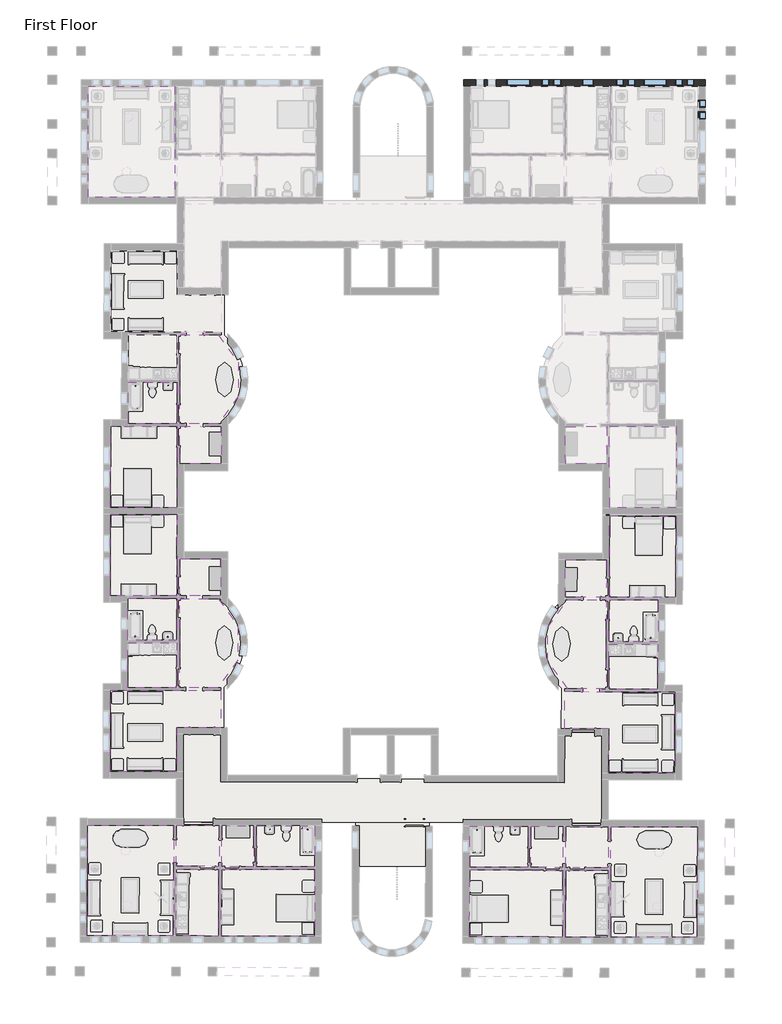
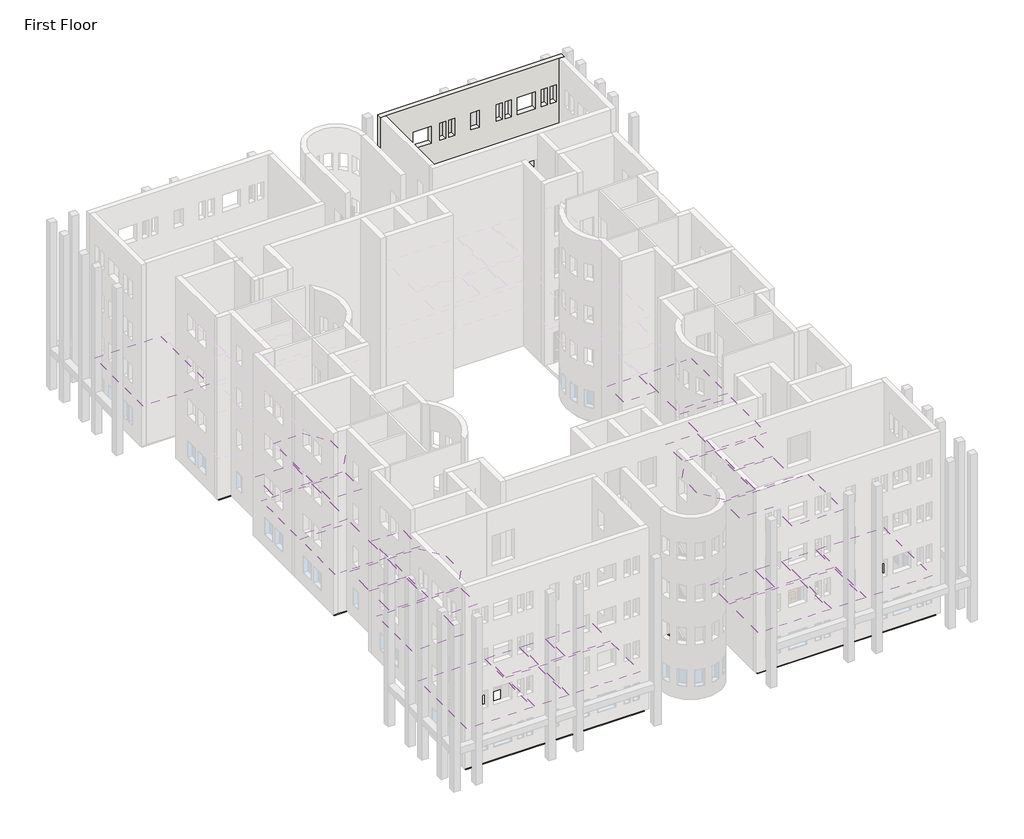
# One storey, part 16 of 23: 31 coverings, 11 windows, 7 slabs, 1 wall.
"""IFC4 building model written with IfcOpenShell, lengths in millimetres."""

from ifc_helpers import new_model, si_unit, point, frame, frame_2d, origin, place, context, project, spatial, polyline, circle_curve, trimmed, segment, composite_curve, outline, extrude, faceted_brep, transform, mapped, element, save
from components import m_fixed_0406_x_1220mm_57fee329, m_fixed_0406_x_1220mm_85c28f40, m_fixed_0610_x_1220mm_2c28ef1d, m_fixed_1220_x_1220mm_e08ff7af

model = new_model("IFC4")

# Units and contexts
model_context = context("Model", 3, world=origin())
ifc_project = project(units=[si_unit("LENGTHUNIT", "METRE", prefix="MILLI")], contexts=[model_context])

# Site, building, storey
site = spatial("IfcSite", under=ifc_project)
building = spatial("IfcBuilding", under=site)
storey = spatial("IfcBuildingStorey", under=building, Name="First Floor", Elevation=0.0)

# Coverings
placement = place(None, origin())
element("IfcCovering", 1, ObjectType="GWB on Metal stud", at=placement, inside=storey, context=model_context, shape_type="SweptSolid", body=[
    extrude(outline(polyline([(-30316.5916203, -3339.8811614), (-34820.8416203, -3339.8811614), (-34820.8416203, 2406.1188386), (-30316.5916203, 2406.1188386), (-30316.5916203, -3339.8811614)])), frame((0.0, 0.0, 2590.0), z_axis=(0.0, 0.0, 1.0), x_axis=(1.0, 0.0, 0.0)), (0.0, 0.0, 1.0), 57.0),
])
element("IfcCovering", 2, ObjectType="GWB on Metal stud", at=placement, inside=storey, context=model_context, shape_type="SweptSolid", body=[
    extrude(outline(polyline([(-14999.3091283, -41787.7339965), (-14989.2451686, -38311.2485634), (-10140.7654843, -38325.2842626), (-10150.829444, -41801.7696957), (-14999.3091283, -41787.7339965)])), frame((0.0, 0.0, 2590.0), z_axis=(0.0, 0.0, 1.0), x_axis=(1.0, 0.0, 0.0)), (0.0, 0.0, 1.0), 57.0),
])
element("IfcCovering", 3, ObjectType="GWB on Metal stud", at=placement, inside=storey, context=model_context, shape_type="SweptSolid", body=[
    extrude(outline(polyline([(-10005.2660521, -38325.6765153), (-7787.0253468, -38332.098025), (-7797.0893064, -41808.5834581), (-10015.3300117, -41802.1619484), (-10005.2660521, -38325.6765153)])), frame((0.0, 0.0, 2590.0), z_axis=(0.0, 0.0, 1.0), x_axis=(1.0, 0.0, 0.0)), (0.0, 0.0, 1.0), 57.0),
])
element("IfcCovering", 4, ObjectType="GWB on Metal stud", at=placement, inside=storey, context=model_context, shape_type="SweptSolid", body=[
    extrude(outline(polyline([(-7644.9560436, -36062.9997871), (-3140.7249168, -36076.0389329), (-3157.3587474, -41822.0148566), (-7661.5898742, -41808.9757108), (-7644.9560436, -36062.9997871)])), frame((0.0, 0.0, 2590.0), z_axis=(0.0, 0.0, 1.0), x_axis=(1.0, 0.0, 0.0)), (0.0, 0.0, 1.0), 57.0),
])
element("IfcCovering", 5, ObjectType="GWB on Metal stud", at=placement, inside=storey, context=model_context, shape_type="SweptSolid", body=[
    extrude(outline(polyline([(-7780.4554758, -36062.6075344), (-7786.6330941, -38196.5985928), (-10004.8737994, -38190.1770831), (-9998.6961811, -36056.1860247), (-7780.4554758, -36062.6075344)])), frame((0.0, 0.0, 2590.0), z_axis=(0.0, 0.0, 1.0), x_axis=(1.0, 0.0, 0.0)), (0.0, 0.0, 1.0), 57.0),
])
element("IfcCovering", 6, ObjectType="GWB on Metal stud", at=placement, inside=storey, context=model_context, shape_type="SweptSolid", body=[
    extrude(outline(polyline([(-11940.8656874, -38184.5726459), (-14988.8529159, -38175.7491311), (-14982.6752977, -36041.7580728), (-11934.6880691, -36050.5815875), (-11940.8656874, -38184.5726459)])), frame((0.0, 0.0, 2590.0), z_axis=(0.0, 0.0, 1.0), x_axis=(1.0, 0.0, 0.0)), (0.0, 0.0, 1.0), 57.0),
])
element("IfcCovering", 7, ObjectType="GWB on Metal stud", at=placement, inside=storey, context=model_context, shape_type="SweptSolid", body=[
    extrude(outline(polyline([(-10134.1956134, -36055.793772), (-10140.3732316, -38189.7848304), (-11805.3662551, -38184.9648986), (-11799.1886369, -36050.9738403), (-10134.1956134, -36055.793772)])), frame((0.0, 0.0, 2590.0), z_axis=(0.0, 0.0, 1.0), x_axis=(1.0, 0.0, 0.0)), (0.0, 0.0, 1.0), 57.0),
])
element("IfcCovering", 8, ObjectType="GWB on Metal stud", at=placement, inside=storey, context=model_context, shape_type="SweptSolid", body=[
    extrude(outline(polyline([(-23042.7754252, -41764.4492391), (-27891.2551095, -41750.4135399), (-27881.1911499, -38273.9281067), (-23032.7114656, -38287.9638059), (-23042.7754252, -41764.4492391)])), frame((0.0, 0.0, 2590.0), z_axis=(0.0, 0.0, 1.0), x_axis=(1.0, 0.0, 0.0)), (0.0, 0.0, 1.0), 57.0),
])
element("IfcCovering", 9, ObjectType="GWB on Metal stud", at=placement, inside=storey, context=model_context, shape_type="SweptSolid", body=[
    extrude(outline(polyline([(-28016.6905821, -38273.535854), (-28026.7545418, -41750.0212871), (-30244.9952471, -41743.5997775), (-30234.9312874, -38267.1143443), (-28016.6905821, -38273.535854)])), frame((0.0, 0.0, 2590.0), z_axis=(0.0, 0.0, 1.0), x_axis=(1.0, 0.0, 0.0)), (0.0, 0.0, 1.0), 57.0),
])
element("IfcCovering", 10, ObjectType="GWB on Metal stud", at=placement, inside=storey, context=model_context, shape_type="SweptSolid", body=[
    extrude(outline(polyline([(-30363.8608487, -35997.2316011), (-30380.4946793, -41743.2075247), (-34884.7258061, -41730.168379), (-34868.0919755, -35984.1924553), (-30363.8608487, -35997.2316011)])), frame((0.0, 0.0, 2590.0), z_axis=(0.0, 0.0, 1.0), x_axis=(1.0, 0.0, 0.0)), (0.0, 0.0, 1.0), 57.0),
])
element("IfcCovering", 11, ObjectType="GWB on Metal stud", at=placement, inside=storey, context=model_context, shape_type="SweptSolid", body=[
    extrude(outline(polyline([(-30228.3614165, -35997.6238538), (-28010.1207112, -36004.0453635), (-28016.2983294, -38138.0364218), (-30234.5390347, -38131.6149121), (-30228.3614165, -35997.6238538)])), frame((0.0, 0.0, 2590.0), z_axis=(0.0, 0.0, 1.0), x_axis=(1.0, 0.0, 0.0)), (0.0, 0.0, 1.0), 57.0),
])
element("IfcCovering", 12, ObjectType="GWB on Metal stud", at=placement, inside=storey, context=model_context, shape_type="SweptSolid", body=[
    extrude(outline(polyline([(-26080.3064415, -38143.640859), (-26074.1288232, -36009.6498006), (-23026.1415946, -36018.4733154), (-23032.3192129, -38152.4643737), (-26080.3064415, -38143.640859)])), frame((0.0, 0.0, 2590.0), z_axis=(0.0, 0.0, 1.0), x_axis=(1.0, 0.0, 0.0)), (0.0, 0.0, 1.0), 57.0),
])
element("IfcCovering", 13, ObjectType="GWB on Metal stud", at=placement, inside=storey, context=model_context, shape_type="SweptSolid", body=[
    extrude(outline(polyline([(-27874.6212789, -36004.4376162), (-26209.6282554, -36009.2575479), (-26215.8058737, -38143.2486063), (-27880.7988972, -38138.4286745), (-27874.6212789, -36004.4376162)])), frame((0.0, 0.0, 2590.0), z_axis=(0.0, 0.0, 1.0), x_axis=(1.0, 0.0, 0.0)), (0.0, 0.0, 1.0), 57.0),
])
element("IfcCovering", 14, ObjectType="Plain", at=placement, inside=storey, context=model_context, shape_type="SweptSolid", body=[
    extrude(outline(polyline([(-7719.603401, -17382.7647995), (-7726.8533934, -17382.7752934), (-7729.9194088, -15264.5275123), (-5002.0722663, -15260.5791445), (-5002.0617724, -15267.829137), (-4262.662547, -15266.7589083), (-4256.5515039, -19488.7544857), (-7716.5478795, -19493.7625882), (-7719.603401, -17382.7647995)])), frame((0.0, 0.0, 2591.0), z_axis=(0.0, 0.0, 1.0), x_axis=(1.0, 0.0, 0.0)), (0.0, 0.0, 1.0), 57.0),
])
element("IfcCovering", 15, ObjectType="Plain", at=placement, inside=storey, context=model_context, shape_type="SweptSolid", body=[
    extrude(outline(polyline([(-10008.6670217, -15267.8258399), (-7865.4192668, -15264.7236389), (-7862.6065515, -17207.9716033), (-10005.8543064, -17211.0738043), (-10008.6670217, -15267.8258399)])), frame((0.0, 0.0, 2591.0), z_axis=(0.0, 0.0, 1.0), x_axis=(1.0, 0.0, 0.0)), (0.0, 0.0, 1.0), 57.0),
])
element("IfcCovering", 16, ObjectType="Plain", at=placement, inside=storey, context=model_context, shape_type="SweptSolid", body=[
    extrude(outline(polyline([(-30194.5798396, -17382.7647995), (-30197.6353611, -19493.7625882), (-33657.6317367, -19488.7544857), (-33651.5206937, -15266.7589083), (-32912.1214682, -15267.829137), (-32912.1109744, -15260.5791445), (-30184.2638319, -15264.5275123), (-30187.3298472, -17382.7752934), (-30194.5798396, -17382.7647995)])), frame((0.0, 0.0, 2591.0), z_axis=(0.0, 0.0, 1.0), x_axis=(1.0, 0.0, 0.0)), (0.0, 0.0, 1.0), 57.0),
])
element("IfcCovering", 17, ObjectType="Plain", at=placement, inside=storey, context=model_context, shape_type="SweptSolid", body=[
    extrude(outline(polyline([(-30184.0677053, -15129.0276542), (-32736.9150311, -15125.3325865), (-32733.7801182, -12959.4848553), (-30180.9327923, -12963.179923), (-30184.0677053, -15129.0276542)])), frame((0.0, 0.0, 2591.0), z_axis=(0.0, 0.0, 1.0), x_axis=(1.0, 0.0, 0.0)), (0.0, 0.0, 1.0), 57.0),
])
element("IfcCovering", 18, ObjectType="Plain", at=placement, inside=storey, context=model_context, shape_type="SweptSolid", body=[
    extrude(outline(composite_curve([segment(trimmed(circle_curve(frame_2d((-29743.0251618, -12811.413604)), 2873.0), [point((-28042.6605552, -10495.6223343))], [point((-28049.3715573, -15132.1174775))], False, "CARTESIAN"), True, "CONTINUOUS"), segment(polyline([(-28049.3715573, -15132.1174775), (-30048.5678472, -15129.2237808), (-30041.8568451, -10492.7286377), (-28042.6605552, -10495.6223343)]), True, "CONTINUOUS")], self_intersect=False)), frame((0.0, 0.0, 2591.0), z_axis=(0.0, 0.0, 1.0), x_axis=(1.0, 0.0, 0.0)), (0.0, 0.0, 1.0), 57.0),
])
element("IfcCovering", 19, ObjectType="Plain", at=placement, inside=storey, context=model_context, shape_type="SweptSolid", body=[
    extrude(outline(polyline([(-27905.5162189, -15267.8258399), (-27908.3289343, -17211.0738043), (-30051.5766892, -17207.9716033), (-30048.7639738, -15264.7236389), (-27905.5162189, -15267.8258399)])), frame((0.0, 0.0, 2591.0), z_axis=(0.0, 0.0, 1.0), x_axis=(1.0, 0.0, 0.0)), (0.0, 0.0, 1.0), 57.0),
])
element("IfcCovering", 20, ObjectType="Plain", at=placement, inside=storey, context=model_context, shape_type="SweptSolid", body=[
    extrude(outline(polyline([(-7726.3152164, -22019.8217838), (-7717.1486774, -19908.8416857), (-4257.1812973, -19923.8659512), (-4275.5143752, -24145.8261474), (-5014.9074043, -24142.6154706), (-5014.9388858, -24149.8654022), (-7742.7631684, -24138.020332), (-7733.565148, -22019.7903023), (-7726.3152164, -22019.8217838)])), frame((0.0, 0.0, 2591.0), z_axis=(0.0, 0.0, 1.0), x_axis=(1.0, 0.0, 0.0)), (0.0, 0.0, 1.0), 57.0),
])
element("IfcCovering", 21, ObjectType="Plain", at=placement, inside=storey, context=model_context, shape_type="SweptSolid", body=[
    extrude(outline(polyline([(-7743.3515464, -24273.5190546), (-5190.525614, -24284.6042269), (-5199.9303266, -26450.4338079), (-7752.756259, -26439.3486356), (-7743.3515464, -24273.5190546)])), frame((0.0, 0.0, 2591.0), z_axis=(0.0, 0.0, 1.0), x_axis=(1.0, 0.0, 0.0)), (0.0, 0.0, 1.0), 57.0),
])
element("IfcCovering", 22, ObjectType="Plain", at=placement, inside=storey, context=model_context, shape_type="SweptSolid", body=[
    extrude(outline(polyline([(-7753.3446371, -26574.8473581), (-5200.5187046, -26585.9325305), (-5210.6585641, -28921.0605153), (-7763.4844965, -28909.975343), (-7753.3446371, -26574.8473581)])), frame((0.0, 0.0, 2591.0), z_axis=(0.0, 0.0, 1.0), x_axis=(1.0, 0.0, 0.0)), (0.0, 0.0, 1.0), 57.0),
])
element("IfcCovering", 23, ObjectType="Plain", at=placement, inside=storey, context=model_context, shape_type="SweptSolid", body=[
    extrude(outline(polyline([(-10042.8013912, -29035.5791103), (-5036.248592, -29057.3191357), (-5036.2800734, -29064.5690674), (-4296.8870443, -29067.7797442), (-4315.2201221, -33289.7399404), (-7775.1875022, -33274.7156749), (-7765.2610655, -30988.7372266), (-10051.2395137, -30978.8107899), (-10042.8013912, -29035.5791103)])), frame((0.0, 0.0, 2591.0), z_axis=(0.0, 0.0, 1.0), x_axis=(1.0, 0.0, 0.0)), (0.0, 0.0, 1.0), 57.0),
])
element("IfcCovering", 24, ObjectType="Plain", at=placement, inside=storey, context=model_context, shape_type="SweptSolid", body=[
    extrude(outline(composite_curve([segment(trimmed(circle_curve(frame_2d((-8191.1013961, -26589.84664)), 2873.0), [point((-9898.1627553, -28900.7058992))], [point((-9878.0298052, -24264.2496108))], False, "CARTESIAN"), True, "CONTINUOUS"), segment(polyline([(-9878.0298052, -24264.2496108), (-7878.850269, -24272.9306765), (-7898.9832191, -28909.3869649), (-9898.1627553, -28900.7058992)]), True, "CONTINUOUS")], self_intersect=False)), frame((0.0, 0.0, 2591.0), z_axis=(0.0, 0.0, 1.0), x_axis=(1.0, 0.0, 0.0)), (0.0, 0.0, 1.0), 57.0),
])
element("IfcCovering", 25, ObjectType="Plain", at=placement, inside=storey, context=model_context, shape_type="SweptSolid", body=[
    extrude(outline(polyline([(-10021.491685, -24128.1253768), (-10013.0535624, -22184.8936972), (-7869.8237684, -22194.2002744), (-7878.2618909, -24137.431954), (-10021.491685, -24128.1253768)])), frame((0.0, 0.0, 2591.0), z_axis=(0.0, 0.0, 1.0), x_axis=(1.0, 0.0, 0.0)), (0.0, 0.0, 1.0), 57.0),
])
element("IfcCovering", 26, ObjectType="Plain", at=placement, inside=storey, context=model_context, shape_type="SweptSolid", body=[
    extrude(outline(polyline([(-30201.1974826, -21954.7600102), (-30193.9474902, -21954.7705041), (-30197.0135056, -24073.0182852), (-32924.8606481, -24069.0699174), (-32924.8501542, -24061.819925), (-33664.2493797, -24060.7496964), (-33658.1383367, -19838.7541191), (-30198.1419611, -19843.7622216), (-30201.1974826, -21954.7600102)])), frame((0.0, 0.0, 2591.0), z_axis=(0.0, 0.0, 1.0), x_axis=(1.0, 0.0, 0.0)), (0.0, 0.0, 1.0), 57.0),
])
element("IfcCovering", 27, ObjectType="Plain", at=placement, inside=storey, context=model_context, shape_type="SweptSolid", body=[
    extrude(outline(polyline([(-30197.2096321, -24208.5181432), (-30200.3445451, -26374.3658745), (-32753.1918709, -26370.6708067), (-32750.056958, -24204.8230755), (-30197.2096321, -24208.5181432)])), frame((0.0, 0.0, 2591.0), z_axis=(0.0, 0.0, 1.0), x_axis=(1.0, 0.0, 0.0)), (0.0, 0.0, 1.0), 57.0),
])
element("IfcCovering", 28, ObjectType="Plain", at=placement, inside=storey, context=model_context, shape_type="SweptSolid", body=[
    extrude(outline(polyline([(-30200.5406716, -26509.8657325), (-30203.9206342, -28845.0132864), (-32756.7679601, -28841.3182186), (-32753.3879975, -26506.1706647), (-30200.5406716, -26509.8657325)])), frame((0.0, 0.0, 2591.0), z_axis=(0.0, 0.0, 1.0), x_axis=(1.0, 0.0, 0.0)), (0.0, 0.0, 1.0), 57.0),
])
element("IfcCovering", 29, ObjectType="Plain", at=placement, inside=storey, context=model_context, shape_type="SweptSolid", body=[
    extrude(outline(polyline([(-27925.3691479, -28983.8114721), (-27928.1818632, -30927.0594365), (-30214.1794686, -30923.750615), (-30217.4882901, -33209.7482204), (-33677.4846656, -33204.7401178), (-33671.3736226, -28982.7445405), (-32931.9743972, -28983.8147691), (-32931.9639033, -28976.5647767), (-27925.3691479, -28983.8114721)])), frame((0.0, 0.0, 2591.0), z_axis=(0.0, 0.0, 1.0), x_axis=(1.0, 0.0, 0.0)), (0.0, 0.0, 1.0), 57.0),
])
element("IfcCovering", 30, ObjectType="Plain", at=placement, inside=storey, context=model_context, shape_type="SweptSolid", body=[
    extrude(outline(composite_curve([segment(polyline([(-28069.2244863, -28848.1031096), (-30068.4207762, -28845.209413), (-30061.7097741, -24208.7142698), (-28062.5134842, -24211.6079665)]), True, "CONTINUOUS"), segment(trimmed(circle_curve(frame_2d((-29762.8780907, -26527.3992362)), 2873.0), [point((-28062.5134842, -24211.6079665))], [point((-28069.2244863, -28848.1031096))], False, "CARTESIAN"), True, "CONTINUOUS")], self_intersect=False)), frame((0.0, 0.0, 2591.0), z_axis=(0.0, 0.0, 1.0), x_axis=(1.0, 0.0, 0.0)), (0.0, 0.0, 1.0), 57.0),
])
element("IfcCovering", 31, ObjectType="Plain", at=placement, inside=storey, context=model_context, shape_type="SweptSolid", body=[
    extrude(outline(polyline([(-27918.2658926, -24076.3166128), (-30061.5136475, -24073.2144117), (-30058.7009321, -22129.9664473), (-27915.4531772, -22133.0686484), (-27918.2658926, -24076.3166128)])), frame((0.0, 0.0, 2591.0), z_axis=(0.0, 0.0, 1.0), x_axis=(1.0, 0.0, 0.0)), (0.0, 0.0, 1.0), 57.0),
])

# Slabs
element("IfcSlab", 32, ObjectType="160mm Concrete With 50mm Metal Deck", at=placement, inside=storey, context=model_context, shape_type="SweptSolid", body=[
    extrude(outline(composite_curve([segment(polyline([(-33822.8703896, -19653.5154871), (-33816.2816951, -15101.5202555), (-32901.882653, -15102.8437841), (-32895.2360615, -10510.8485943), (-33809.6351036, -10509.5250657), (-33803.0464092, -5957.5298341), (-30013.0503793, -5963.015588), (-30016.3592008, -8249.0131933), (-27730.3615954, -8252.3220148), (-27733.662483, -10532.8382541)]), True, "CONTINUOUS"), segment(trimmed(circle_curve(frame_2d((-29743.0251618, -12811.413604)), 3038.0), [point((-27733.662483, -10532.8382541))], [point((-27740.2670452, -15095.7962179))], False, "CARTESIAN"), True, "CONTINUOUS"), segment(polyline([(-27740.2670452, -15095.7962179), (-27743.5679328, -17376.3124572), (-30029.5655382, -17373.0036357), (-30032.8743597, -19659.0012411), (-33822.8703896, -19653.5154871)]), True, "CONTINUOUS")], self_intersect=False)), frame((0.0, 0.0, -210.0), z_axis=(0.0, 0.0, 1.0), x_axis=(1.0, 0.0, 0.0)), (0.0, 0.0, 1.0), 210.0),
])
element("IfcSlab", 33, ObjectType="160mm Concrete With 50mm Metal Deck", at=placement, inside=storey, context=model_context, shape_type="SweptSolid", body=[
    extrude(outline(polyline([(-2992.8370897, -41987.4918161), (-15164.7860878, -41952.2556543), (-15147.1969554, -35876.2811133), (-2975.2479573, -35911.5172751), (-2992.8370897, -41987.4918161)])), frame((0.0, 0.0, -210.0), z_axis=(0.0, 0.0, 1.0), x_axis=(1.0, 0.0, 0.0)), (0.0, 0.0, 1.0), 210.0),
])
element("IfcSlab", 34, ObjectType="160mm Concrete With 50mm Metal Deck", at=placement, inside=storey, context=model_context, shape_type="SweptSolid", body=[
    extrude(outline(composite_curve([segment(polyline([(-4091.4663778, -19759.5839819), (-4111.2324058, -24311.541067), (-5025.6237851, -24307.5704923), (-5045.5635041, -28899.5272002), (-4131.1721248, -28903.4977749), (-4150.9381528, -33455.45486), (-7940.9024218, -33438.9976442), (-7930.975985, -31153.0191959), (-10216.9544333, -31143.0927592), (-10207.0517981, -28862.5956311)]), True, "CONTINUOUS"), segment(trimmed(circle_curve(frame_2d((-8191.1013961, -26589.84664)), 3038.0), [point((-10207.0517981, -28862.5956311))], [point((-10187.2381669, -24299.6759058))], False, "CARTESIAN"), True, "CONTINUOUS"), segment(polyline([(-10187.2381669, -24299.6759058), (-10177.3355318, -22019.1787777), (-7891.3570835, -22029.1052144), (-7881.4306468, -19743.1267661), (-4091.4663778, -19759.5839819)]), True, "CONTINUOUS")], self_intersect=False)), frame((0.0, 0.0, -210.0), z_axis=(0.0, 0.0, 1.0), x_axis=(1.0, 0.0, 0.0)), (0.0, 0.0, 1.0), 210.0),
])
element("IfcSlab", 35, ObjectType="160mm Concrete With 50mm Metal Deck", at=placement, inside=storey, context=model_context, shape_type="SweptSolid", body=[
    extrude(outline(polyline([(-35050.2027656, -41894.6900367), (-35032.6136332, -35818.7154958), (-22860.6646351, -35853.9516576), (-22878.2537675, -41929.9261986), (-35050.2027656, -41894.6900367)])), frame((0.0, 0.0, -210.0), z_axis=(0.0, 0.0, 1.0), x_axis=(1.0, 0.0, 0.0)), (0.0, 0.0, 1.0), 210.0),
])
element("IfcSlab", 36, ObjectType="160mm Concrete With 50mm Metal Deck", at=placement, inside=storey, context=model_context, shape_type="SweptSolid", body=[
    extrude(outline(composite_curve([segment(polyline([(-33822.8993381, -19673.5154662), (-30032.9033083, -19679.0012201), (-30036.2121297, -21964.9988255), (-27750.2145244, -21968.307647), (-27753.515412, -24248.8238862)]), True, "CONTINUOUS"), segment(trimmed(circle_curve(frame_2d((-29762.8780907, -26527.3992362)), 3038.0), [point((-27753.515412, -24248.8238862))], [point((-27760.1199742, -28811.7818501))], False, "CARTESIAN"), True, "CONTINUOUS"), segment(polyline([(-27760.1199742, -28811.7818501), (-27763.4208618, -31092.2980893), (-30049.4184671, -31088.9892679), (-30052.7272886, -33374.9868732), (-33842.7233185, -33369.5011193), (-33836.1346241, -28817.5058876), (-32921.7355819, -28818.8294162), (-32915.0889904, -24226.8342265), (-33829.4880325, -24225.5106979), (-33822.8993381, -19673.5154662)]), True, "CONTINUOUS")], self_intersect=False)), frame((0.0, 0.0, -210.0), z_axis=(0.0, 0.0, 1.0), x_axis=(1.0, 0.0, 0.0)), (0.0, 0.0, 1.0), 210.0),
])
element("IfcSlab", 37, ObjectType="Generic 150mm", at=placement, inside=storey, context=model_context, shape_type="SweptSolid", body=[
    extrude(outline(polyline([(-7964.9191527, -35877.0727616), (-30042.8266437, -35813.1601769), (-30029.2080929, -31108.7798888), (-27763.2175877, -31115.3396278), (-27770.2763995, -33553.7294106), (-10224.3499189, -33604.5225174), (-10217.2911072, -31166.1327345), (-7951.3006019, -31172.6924735), (-7964.9191527, -35877.0727616)])), frame((0.0, 0.0, -150.0), z_axis=(0.0, 0.0, 1.0), x_axis=(1.0, 0.0, 0.0)), (0.0, 0.0, 1.0), 150.0),
])
element("IfcSlab", 38, ObjectType="Generic 150mm", at=placement, inside=storey, context=model_context, shape_type="SweptSolid", body=[
    extrude(outline(polyline([(-17098.9098289, -35860.6311241), (-17105.5274649, -38146.6215455), (-20915.5115006, -38135.5921521), (-20908.8938646, -35849.6017306), (-17098.9098289, -35860.6311241)])), frame((0.0, 0.0, -150.0), z_axis=(0.0, 0.0, 1.0), x_axis=(1.0, 0.0, 0.0)), (0.0, 0.0, 1.0), 150.0),
])

# Wall
element("IfcWall", 39, ObjectType="Exterior - Brick on Mtl. Stud", at=placement, inside=storey, context=model_context, shape_type="Brep", body=[
    faceted_brep([(-15285.3416203, 2406.1188386, 0.0), (-15100.3416203, 2406.1188386, 0.0), (-14935.3416203, 2406.1188386, 0.0), (-10086.8416203, 2406.1188386, 0.0), (-9951.3416203, 2406.1188386, 0.0), (-7733.0916203, 2406.1188386, 0.0), (-7597.5916203, 2406.1188386, 0.0), (-3093.3416203, 2406.1188386, 0.0), (-2928.3416203, 2406.1188386, 0.0), (-2743.3416203, 2406.1188386, 0.0), (-2743.3416203, 2406.1188386, 13107.0), (-3093.3416203, 2406.1188386, 13107.0), (-14935.3416203, 2406.1188386, 13107.0), (-15285.3416203, 2406.1188386, 13107.0), (-8537.1916203, 2406.1188386, 915.0), (-9147.1916203, 2406.1188386, 915.0), (-9147.1916203, 2406.1188386, 2135.0), (-8537.1916203, 2406.1188386, 2135.0), (-11833.3416203, 2406.1188386, 915.0), (-13053.3416203, 2406.1188386, 915.0), (-13053.3416203, 2406.1188386, 2135.0), (-11833.3416203, 2406.1188386, 2135.0), (-4735.4666203, 2406.1188386, 915.0), (-5955.4666203, 2406.1188386, 915.0), (-5955.4666203, 2406.1188386, 2135.0), (-4735.4666203, 2406.1188386, 2135.0), (-14247.3416203, 2406.1188386, 915.0), (-14653.3416203, 2406.1188386, 915.0), (-14653.3416203, 2406.1188386, 2135.0), (-14247.3416203, 2406.1188386, 2135.0), (-13637.3416203, 2406.1188386, 915.0), (-14043.3416203, 2406.1188386, 915.0), (-14043.3416203, 2406.1188386, 2135.0), (-13637.3416203, 2406.1188386, 2135.0), (-11249.3416203, 2406.1188386, 915.0), (-11249.3416203, 2406.1188386, 2135.0), (-10843.3416203, 2406.1188386, 2135.0), (-10843.3416203, 2406.1188386, 915.0), (-10639.3416203, 2406.1188386, 915.0), (-10639.3416203, 2406.1188386, 2135.0), (-10233.3416203, 2406.1188386, 2135.0), (-10233.3416203, 2406.1188386, 915.0), (-6370.3416203, 2406.1188386, 915.0), (-6776.3416203, 2406.1188386, 915.0), (-6776.3416203, 2406.1188386, 2135.0), (-6370.3416203, 2406.1188386, 2135.0), (-6980.3416203, 2406.1188386, 915.0), (-7386.3416203, 2406.1188386, 915.0), (-7386.3416203, 2406.1188386, 2135.0), (-6980.3416203, 2406.1188386, 2135.0), (-4320.5916203, 2406.1188386, 915.0), (-4320.5916203, 2406.1188386, 2135.0), (-3914.5916203, 2406.1188386, 2135.0), (-3914.5916203, 2406.1188386, 915.0), (-3710.5916203, 2406.1188386, 915.0), (-3710.5916203, 2406.1188386, 2135.0), (-3304.5916203, 2406.1188386, 2135.0), (-3304.5916203, 2406.1188386, 915.0), (-4320.5916203, 2406.1188386, 10059.0), (-4320.5916203, 2406.1188386, 11279.0), (-3914.5916203, 2406.1188386, 11279.0), (-3914.5916203, 2406.1188386, 10059.0), (-3710.5916203, 2406.1188386, 10059.0), (-3710.5916203, 2406.1188386, 11279.0), (-3304.5916203, 2406.1188386, 11279.0), (-3304.5916203, 2406.1188386, 10059.0), (-6370.3416203, 2406.1188386, 10059.0), (-6776.3416203, 2406.1188386, 10059.0), (-6776.3416203, 2406.1188386, 11279.0), (-6370.3416203, 2406.1188386, 11279.0), (-6980.3416203, 2406.1188386, 10059.0), (-7386.3416203, 2406.1188386, 10059.0), (-7386.3416203, 2406.1188386, 11279.0), (-6980.3416203, 2406.1188386, 11279.0), (-11249.3416203, 2406.1188386, 10059.0), (-11249.3416203, 2406.1188386, 11279.0), (-10843.3416203, 2406.1188386, 11279.0), (-10843.3416203, 2406.1188386, 10059.0), (-10639.3416203, 2406.1188386, 10059.0), (-10639.3416203, 2406.1188386, 11279.0), (-10233.3416203, 2406.1188386, 11279.0), (-10233.3416203, 2406.1188386, 10059.0), (-13637.3416203, 2406.1188386, 10059.0), (-14043.3416203, 2406.1188386, 10059.0), (-14043.3416203, 2406.1188386, 11279.0), (-13637.3416203, 2406.1188386, 11279.0), (-14247.3416203, 2406.1188386, 10059.0), (-14653.3416203, 2406.1188386, 10059.0), (-14653.3416203, 2406.1188386, 11279.0), (-14247.3416203, 2406.1188386, 11279.0), (-4735.4666203, 2406.1188386, 10059.0), (-5955.4666203, 2406.1188386, 10059.0), (-5955.4666203, 2406.1188386, 11279.0), (-4735.4666203, 2406.1188386, 11279.0), (-11833.3416203, 2406.1188386, 10059.0), (-13053.3416203, 2406.1188386, 10059.0), (-13053.3416203, 2406.1188386, 11279.0), (-11833.3416203, 2406.1188386, 11279.0), (-8537.1916203, 2406.1188386, 10059.0), (-9147.1916203, 2406.1188386, 10059.0), (-9147.1916203, 2406.1188386, 11279.0), (-8537.1916203, 2406.1188386, 11279.0), (-4320.5916203, 2406.1188386, 3963.0), (-4320.5916203, 2406.1188386, 5183.0), (-3914.5916203, 2406.1188386, 5183.0), (-3914.5916203, 2406.1188386, 3963.0), (-3710.5916203, 2406.1188386, 3963.0), (-3710.5916203, 2406.1188386, 5183.0), (-3304.5916203, 2406.1188386, 5183.0), (-3304.5916203, 2406.1188386, 3963.0), (-6370.3416203, 2406.1188386, 3963.0), (-6776.3416203, 2406.1188386, 3963.0), (-6776.3416203, 2406.1188386, 5183.0), (-6370.3416203, 2406.1188386, 5183.0), (-6980.3416203, 2406.1188386, 3963.0), (-7386.3416203, 2406.1188386, 3963.0), (-7386.3416203, 2406.1188386, 5183.0), (-6980.3416203, 2406.1188386, 5183.0), (-11249.3416203, 2406.1188386, 3963.0), (-11249.3416203, 2406.1188386, 5183.0), (-10843.3416203, 2406.1188386, 5183.0), (-10843.3416203, 2406.1188386, 3963.0), (-10639.3416203, 2406.1188386, 3963.0), (-10639.3416203, 2406.1188386, 5183.0), (-10233.3416203, 2406.1188386, 5183.0), (-10233.3416203, 2406.1188386, 3963.0), (-13637.3416203, 2406.1188386, 3963.0), (-14043.3416203, 2406.1188386, 3963.0), (-14043.3416203, 2406.1188386, 5183.0), (-13637.3416203, 2406.1188386, 5183.0), (-14247.3416203, 2406.1188386, 3963.0), (-14653.3416203, 2406.1188386, 3963.0), (-14653.3416203, 2406.1188386, 5183.0), (-14247.3416203, 2406.1188386, 5183.0), (-4735.4666203, 2406.1188386, 3963.0), (-5955.4666203, 2406.1188386, 3963.0), (-5955.4666203, 2406.1188386, 5183.0), (-4735.4666203, 2406.1188386, 5183.0), (-11833.3416203, 2406.1188386, 3963.0), (-13053.3416203, 2406.1188386, 3963.0), (-13053.3416203, 2406.1188386, 5183.0), (-11833.3416203, 2406.1188386, 5183.0), (-8537.1916203, 2406.1188386, 3963.0), (-9147.1916203, 2406.1188386, 3963.0), (-9147.1916203, 2406.1188386, 5183.0), (-8537.1916203, 2406.1188386, 5183.0), (-4320.5916203, 2406.1188386, 7011.0), (-4320.5916203, 2406.1188386, 8231.0), (-3914.5916203, 2406.1188386, 8231.0), (-3914.5916203, 2406.1188386, 7011.0), (-3710.5916203, 2406.1188386, 7011.0), (-3710.5916203, 2406.1188386, 8231.0), (-3304.5916203, 2406.1188386, 8231.0), (-3304.5916203, 2406.1188386, 7011.0), (-6370.3416203, 2406.1188386, 7011.0), (-6776.3416203, 2406.1188386, 7011.0), (-6776.3416203, 2406.1188386, 8231.0), (-6370.3416203, 2406.1188386, 8231.0), (-6980.3416203, 2406.1188386, 7011.0), (-7386.3416203, 2406.1188386, 7011.0), (-7386.3416203, 2406.1188386, 8231.0), (-6980.3416203, 2406.1188386, 8231.0), (-11249.3416203, 2406.1188386, 7011.0), (-11249.3416203, 2406.1188386, 8231.0), (-10843.3416203, 2406.1188386, 8231.0), (-10843.3416203, 2406.1188386, 7011.0), (-10639.3416203, 2406.1188386, 7011.0), (-10639.3416203, 2406.1188386, 8231.0), (-10233.3416203, 2406.1188386, 8231.0), (-10233.3416203, 2406.1188386, 7011.0), (-13637.3416203, 2406.1188386, 7011.0), (-14043.3416203, 2406.1188386, 7011.0), (-14043.3416203, 2406.1188386, 8231.0), (-13637.3416203, 2406.1188386, 8231.0), (-14247.3416203, 2406.1188386, 7011.0), (-14653.3416203, 2406.1188386, 7011.0), (-14653.3416203, 2406.1188386, 8231.0), (-14247.3416203, 2406.1188386, 8231.0), (-4735.4666203, 2406.1188386, 7011.0), (-5955.4666203, 2406.1188386, 7011.0), (-5955.4666203, 2406.1188386, 8231.0), (-4735.4666203, 2406.1188386, 8231.0), (-11833.3416203, 2406.1188386, 7011.0), (-13053.3416203, 2406.1188386, 7011.0), (-13053.3416203, 2406.1188386, 8231.0), (-11833.3416203, 2406.1188386, 8231.0), (-8537.1916203, 2406.1188386, 7011.0), (-9147.1916203, 2406.1188386, 7011.0), (-9147.1916203, 2406.1188386, 8231.0), (-8537.1916203, 2406.1188386, 8231.0), (-15285.3416203, 2756.1188386, 0.0), (-15285.3416203, 2756.1188386, 13107.0), (-2743.3416203, 2756.1188386, 13107.0), (-2743.3416203, 2756.1188386, 0.0), (-2928.3416203, 2756.1188386, 0.0), (-15100.3416203, 2756.1188386, 0.0), (-8537.1916203, 2756.1188386, 915.0), (-8537.1916203, 2756.1188386, 2135.0), (-9147.1916203, 2756.1188386, 2135.0), (-9147.1916203, 2756.1188386, 915.0), (-11833.3416203, 2756.1188386, 915.0), (-11833.3416203, 2756.1188386, 2135.0), (-13053.3416203, 2756.1188386, 2135.0), (-13053.3416203, 2756.1188386, 915.0), (-4735.4666203, 2756.1188386, 915.0), (-4735.4666203, 2756.1188386, 2135.0), (-5955.4666203, 2756.1188386, 2135.0), (-5955.4666203, 2756.1188386, 915.0), (-14247.3416203, 2756.1188386, 915.0), (-14247.3416203, 2756.1188386, 2135.0), (-14653.3416203, 2756.1188386, 2135.0), (-14653.3416203, 2756.1188386, 915.0), (-13637.3416203, 2756.1188386, 915.0), (-13637.3416203, 2756.1188386, 2135.0), (-14043.3416203, 2756.1188386, 2135.0), (-14043.3416203, 2756.1188386, 915.0), (-11249.3416203, 2756.1188386, 915.0), (-10843.3416203, 2756.1188386, 915.0), (-10843.3416203, 2756.1188386, 2135.0), (-11249.3416203, 2756.1188386, 2135.0), (-10639.3416203, 2756.1188386, 915.0), (-10233.3416203, 2756.1188386, 915.0), (-10233.3416203, 2756.1188386, 2135.0), (-10639.3416203, 2756.1188386, 2135.0), (-6370.3416203, 2756.1188386, 915.0), (-6370.3416203, 2756.1188386, 2135.0), (-6776.3416203, 2756.1188386, 2135.0), (-6776.3416203, 2756.1188386, 915.0), (-6980.3416203, 2756.1188386, 915.0), (-6980.3416203, 2756.1188386, 2135.0), (-7386.3416203, 2756.1188386, 2135.0), (-7386.3416203, 2756.1188386, 915.0), (-4320.5916203, 2756.1188386, 915.0), (-3914.5916203, 2756.1188386, 915.0), (-3914.5916203, 2756.1188386, 2135.0), (-4320.5916203, 2756.1188386, 2135.0), (-3710.5916203, 2756.1188386, 915.0), (-3304.5916203, 2756.1188386, 915.0), (-3304.5916203, 2756.1188386, 2135.0), (-3710.5916203, 2756.1188386, 2135.0), (-4320.5916203, 2756.1188386, 10059.0), (-3914.5916203, 2756.1188386, 10059.0), (-3914.5916203, 2756.1188386, 11279.0), (-4320.5916203, 2756.1188386, 11279.0), (-3710.5916203, 2756.1188386, 10059.0), (-3304.5916203, 2756.1188386, 10059.0), (-3304.5916203, 2756.1188386, 11279.0), (-3710.5916203, 2756.1188386, 11279.0), (-6370.3416203, 2756.1188386, 10059.0), (-6370.3416203, 2756.1188386, 11279.0), (-6776.3416203, 2756.1188386, 11279.0), (-6776.3416203, 2756.1188386, 10059.0), (-6980.3416203, 2756.1188386, 10059.0), (-6980.3416203, 2756.1188386, 11279.0), (-7386.3416203, 2756.1188386, 11279.0), (-7386.3416203, 2756.1188386, 10059.0), (-11249.3416203, 2756.1188386, 10059.0), (-10843.3416203, 2756.1188386, 10059.0), (-10843.3416203, 2756.1188386, 11279.0), (-11249.3416203, 2756.1188386, 11279.0), (-10639.3416203, 2756.1188386, 10059.0), (-10233.3416203, 2756.1188386, 10059.0), (-10233.3416203, 2756.1188386, 11279.0), (-10639.3416203, 2756.1188386, 11279.0), (-13637.3416203, 2756.1188386, 10059.0), (-13637.3416203, 2756.1188386, 11279.0), (-14043.3416203, 2756.1188386, 11279.0), (-14043.3416203, 2756.1188386, 10059.0), (-14247.3416203, 2756.1188386, 10059.0), (-14247.3416203, 2756.1188386, 11279.0), (-14653.3416203, 2756.1188386, 11279.0), (-14653.3416203, 2756.1188386, 10059.0), (-4735.4666203, 2756.1188386, 10059.0), (-4735.4666203, 2756.1188386, 11279.0), (-5955.4666203, 2756.1188386, 11279.0), (-5955.4666203, 2756.1188386, 10059.0), (-11833.3416203, 2756.1188386, 10059.0), (-11833.3416203, 2756.1188386, 11279.0), (-13053.3416203, 2756.1188386, 11279.0), (-13053.3416203, 2756.1188386, 10059.0), (-8537.1916203, 2756.1188386, 10059.0), (-8537.1916203, 2756.1188386, 11279.0), (-9147.1916203, 2756.1188386, 11279.0), (-9147.1916203, 2756.1188386, 10059.0), (-4320.5916203, 2756.1188386, 3963.0), (-3914.5916203, 2756.1188386, 3963.0), (-3914.5916203, 2756.1188386, 5183.0), (-4320.5916203, 2756.1188386, 5183.0), (-3710.5916203, 2756.1188386, 3963.0), (-3304.5916203, 2756.1188386, 3963.0), (-3304.5916203, 2756.1188386, 5183.0), (-3710.5916203, 2756.1188386, 5183.0), (-6370.3416203, 2756.1188386, 3963.0), (-6370.3416203, 2756.1188386, 5183.0), (-6776.3416203, 2756.1188386, 5183.0), (-6776.3416203, 2756.1188386, 3963.0), (-6980.3416203, 2756.1188386, 3963.0), (-6980.3416203, 2756.1188386, 5183.0), (-7386.3416203, 2756.1188386, 5183.0), (-7386.3416203, 2756.1188386, 3963.0), (-11249.3416203, 2756.1188386, 3963.0), (-10843.3416203, 2756.1188386, 3963.0), (-10843.3416203, 2756.1188386, 5183.0), (-11249.3416203, 2756.1188386, 5183.0), (-10639.3416203, 2756.1188386, 3963.0), (-10233.3416203, 2756.1188386, 3963.0), (-10233.3416203, 2756.1188386, 5183.0), (-10639.3416203, 2756.1188386, 5183.0), (-13637.3416203, 2756.1188386, 3963.0), (-13637.3416203, 2756.1188386, 5183.0), (-14043.3416203, 2756.1188386, 5183.0), (-14043.3416203, 2756.1188386, 3963.0), (-14247.3416203, 2756.1188386, 3963.0), (-14247.3416203, 2756.1188386, 5183.0), (-14653.3416203, 2756.1188386, 5183.0), (-14653.3416203, 2756.1188386, 3963.0), (-4735.4666203, 2756.1188386, 3963.0), (-4735.4666203, 2756.1188386, 5183.0), (-5955.4666203, 2756.1188386, 5183.0), (-5955.4666203, 2756.1188386, 3963.0), (-11833.3416203, 2756.1188386, 3963.0), (-11833.3416203, 2756.1188386, 5183.0), (-13053.3416203, 2756.1188386, 5183.0), (-13053.3416203, 2756.1188386, 3963.0), (-8537.1916203, 2756.1188386, 3963.0), (-8537.1916203, 2756.1188386, 5183.0), (-9147.1916203, 2756.1188386, 5183.0), (-9147.1916203, 2756.1188386, 3963.0), (-4320.5916203, 2756.1188386, 7011.0), (-3914.5916203, 2756.1188386, 7011.0), (-3914.5916203, 2756.1188386, 8231.0), (-4320.5916203, 2756.1188386, 8231.0), (-3710.5916203, 2756.1188386, 7011.0), (-3304.5916203, 2756.1188386, 7011.0), (-3304.5916203, 2756.1188386, 8231.0), (-3710.5916203, 2756.1188386, 8231.0), (-6370.3416203, 2756.1188386, 7011.0), (-6370.3416203, 2756.1188386, 8231.0), (-6776.3416203, 2756.1188386, 8231.0), (-6776.3416203, 2756.1188386, 7011.0), (-6980.3416203, 2756.1188386, 7011.0), (-6980.3416203, 2756.1188386, 8231.0), (-7386.3416203, 2756.1188386, 8231.0), (-7386.3416203, 2756.1188386, 7011.0), (-11249.3416203, 2756.1188386, 7011.0), (-10843.3416203, 2756.1188386, 7011.0), (-10843.3416203, 2756.1188386, 8231.0), (-11249.3416203, 2756.1188386, 8231.0), (-10639.3416203, 2756.1188386, 7011.0), (-10233.3416203, 2756.1188386, 7011.0), (-10233.3416203, 2756.1188386, 8231.0), (-10639.3416203, 2756.1188386, 8231.0), (-13637.3416203, 2756.1188386, 7011.0), (-13637.3416203, 2756.1188386, 8231.0), (-14043.3416203, 2756.1188386, 8231.0), (-14043.3416203, 2756.1188386, 7011.0), (-14247.3416203, 2756.1188386, 7011.0), (-14247.3416203, 2756.1188386, 8231.0), (-14653.3416203, 2756.1188386, 8231.0), (-14653.3416203, 2756.1188386, 7011.0), (-4735.4666203, 2756.1188386, 7011.0), (-4735.4666203, 2756.1188386, 8231.0), (-5955.4666203, 2756.1188386, 8231.0), (-5955.4666203, 2756.1188386, 7011.0), (-11833.3416203, 2756.1188386, 7011.0), (-11833.3416203, 2756.1188386, 8231.0), (-13053.3416203, 2756.1188386, 8231.0), (-13053.3416203, 2756.1188386, 7011.0), (-8537.1916203, 2756.1188386, 7011.0), (-8537.1916203, 2756.1188386, 8231.0), (-9147.1916203, 2756.1188386, 8231.0), (-9147.1916203, 2756.1188386, 7011.0), (-15285.3416203, 2571.1188386, 0.0), (-2743.3416203, 2571.1188386, 0.0), (-15100.3416203, 2571.1188386, 0.0), (-2928.3416203, 2571.1188386, 0.0)], [[[0, 1, 2, 3, 4, 5, 6, 7, 8, 9, 10, 11, 12, 13], [14, 15, 16, 17], [18, 19, 20, 21], [22, 23, 24, 25], [26, 27, 28, 29], [30, 31, 32, 33], [34, 35, 36, 37], [38, 39, 40, 41], [42, 43, 44, 45], [46, 47, 48, 49], [50, 51, 52, 53], [54, 55, 56, 57], [58, 59, 60, 61], [62, 63, 64, 65], [66, 67, 68, 69], [70, 71, 72, 73], [74, 75, 76, 77], [78, 79, 80, 81], [82, 83, 84, 85], [86, 87, 88, 89], [90, 91, 92, 93], [94, 95, 96, 97], [98, 99, 100, 101], [102, 103, 104, 105], [106, 107, 108, 109], [110, 111, 112, 113], [114, 115, 116, 117], [118, 119, 120, 121], [122, 123, 124, 125], [126, 127, 128, 129], [130, 131, 132, 133], [134, 135, 136, 137], [138, 139, 140, 141], [142, 143, 144, 145], [146, 147, 148, 149], [150, 151, 152, 153], [154, 155, 156, 157], [158, 159, 160, 161], [162, 163, 164, 165], [166, 167, 168, 169], [170, 171, 172, 173], [174, 175, 176, 177], [178, 179, 180, 181], [182, 183, 184, 185], [186, 187, 188, 189]], [[190, 191, 192, 193, 194, 195], [196, 197, 198, 199], [200, 201, 202, 203], [204, 205, 206, 207], [208, 209, 210, 211], [212, 213, 214, 215], [216, 217, 218, 219], [220, 221, 222, 223], [224, 225, 226, 227], [228, 229, 230, 231], [232, 233, 234, 235], [236, 237, 238, 239], [240, 241, 242, 243], [244, 245, 246, 247], [248, 249, 250, 251], [252, 253, 254, 255], [256, 257, 258, 259], [260, 261, 262, 263], [264, 265, 266, 267], [268, 269, 270, 271], [272, 273, 274, 275], [276, 277, 278, 279], [280, 281, 282, 283], [284, 285, 286, 287], [288, 289, 290, 291], [292, 293, 294, 295], [296, 297, 298, 299], [300, 301, 302, 303], [304, 305, 306, 307], [308, 309, 310, 311], [312, 313, 314, 315], [316, 317, 318, 319], [320, 321, 322, 323], [324, 325, 326, 327], [328, 329, 330, 331], [332, 333, 334, 335], [336, 337, 338, 339], [340, 341, 342, 343], [344, 345, 346, 347], [348, 349, 350, 351], [352, 353, 354, 355], [356, 357, 358, 359], [360, 361, 362, 363], [364, 365, 366, 367], [368, 369, 370, 371]], [[13, 12, 11, 10, 192, 191]], [[197, 196, 14, 17]], [[198, 197, 17, 16]], [[199, 198, 16, 15]], [[196, 199, 15, 14]], [[201, 200, 18, 21]], [[202, 201, 21, 20]], [[203, 202, 20, 19]], [[200, 203, 19, 18]], [[205, 204, 22, 25]], [[206, 205, 25, 24]], [[207, 206, 24, 23]], [[204, 207, 23, 22]], [[209, 208, 26, 29]], [[210, 209, 29, 28]], [[211, 210, 28, 27]], [[208, 211, 27, 26]], [[213, 212, 30, 33]], [[214, 213, 33, 32]], [[215, 214, 32, 31]], [[212, 215, 31, 30]], [[35, 34, 216, 219]], [[36, 35, 219, 218]], [[37, 36, 218, 217]], [[34, 37, 217, 216]], [[39, 38, 220, 223]], [[40, 39, 223, 222]], [[41, 40, 222, 221]], [[38, 41, 221, 220]], [[225, 224, 42, 45]], [[226, 225, 45, 44]], [[227, 226, 44, 43]], [[224, 227, 43, 42]], [[229, 228, 46, 49]], [[230, 229, 49, 48]], [[231, 230, 48, 47]], [[228, 231, 47, 46]], [[51, 50, 232, 235]], [[52, 51, 235, 234]], [[53, 52, 234, 233]], [[50, 53, 233, 232]], [[55, 54, 236, 239]], [[56, 55, 239, 238]], [[57, 56, 238, 237]], [[54, 57, 237, 236]], [[59, 58, 240, 243]], [[60, 59, 243, 242]], [[61, 60, 242, 241]], [[58, 61, 241, 240]], [[63, 62, 244, 247]], [[64, 63, 247, 246]], [[65, 64, 246, 245]], [[62, 65, 245, 244]], [[249, 248, 66, 69]], [[250, 249, 69, 68]], [[251, 250, 68, 67]], [[248, 251, 67, 66]], [[253, 252, 70, 73]], [[254, 253, 73, 72]], [[255, 254, 72, 71]], [[252, 255, 71, 70]], [[75, 74, 256, 259]], [[76, 75, 259, 258]], [[77, 76, 258, 257]], [[74, 77, 257, 256]], [[79, 78, 260, 263]], [[80, 79, 263, 262]], [[81, 80, 262, 261]], [[78, 81, 261, 260]], [[265, 264, 82, 85]], [[266, 265, 85, 84]], [[267, 266, 84, 83]], [[264, 267, 83, 82]], [[269, 268, 86, 89]], [[270, 269, 89, 88]], [[271, 270, 88, 87]], [[268, 271, 87, 86]], [[273, 272, 90, 93]], [[274, 273, 93, 92]], [[275, 274, 92, 91]], [[272, 275, 91, 90]], [[277, 276, 94, 97]], [[278, 277, 97, 96]], [[279, 278, 96, 95]], [[276, 279, 95, 94]], [[281, 280, 98, 101]], [[282, 281, 101, 100]], [[283, 282, 100, 99]], [[280, 283, 99, 98]], [[103, 102, 284, 287]], [[104, 103, 287, 286]], [[105, 104, 286, 285]], [[102, 105, 285, 284]], [[107, 106, 288, 291]], [[108, 107, 291, 290]], [[109, 108, 290, 289]], [[106, 109, 289, 288]], [[293, 292, 110, 113]], [[294, 293, 113, 112]], [[295, 294, 112, 111]], [[292, 295, 111, 110]], [[297, 296, 114, 117]], [[298, 297, 117, 116]], [[299, 298, 116, 115]], [[296, 299, 115, 114]], [[119, 118, 300, 303]], [[120, 119, 303, 302]], [[121, 120, 302, 301]], [[118, 121, 301, 300]], [[123, 122, 304, 307]], [[124, 123, 307, 306]], [[125, 124, 306, 305]], [[122, 125, 305, 304]], [[309, 308, 126, 129]], [[310, 309, 129, 128]], [[311, 310, 128, 127]], [[308, 311, 127, 126]], [[313, 312, 130, 133]], [[314, 313, 133, 132]], [[315, 314, 132, 131]], [[312, 315, 131, 130]], [[317, 316, 134, 137]], [[318, 317, 137, 136]], [[319, 318, 136, 135]], [[316, 319, 135, 134]], [[321, 320, 138, 141]], [[322, 321, 141, 140]], [[323, 322, 140, 139]], [[320, 323, 139, 138]], [[325, 324, 142, 145]], [[326, 325, 145, 144]], [[327, 326, 144, 143]], [[324, 327, 143, 142]], [[147, 146, 328, 331]], [[148, 147, 331, 330]], [[149, 148, 330, 329]], [[146, 149, 329, 328]], [[151, 150, 332, 335]], [[152, 151, 335, 334]], [[153, 152, 334, 333]], [[150, 153, 333, 332]], [[337, 336, 154, 157]], [[338, 337, 157, 156]], [[339, 338, 156, 155]], [[336, 339, 155, 154]], [[341, 340, 158, 161]], [[342, 341, 161, 160]], [[343, 342, 160, 159]], [[340, 343, 159, 158]], [[163, 162, 344, 347]], [[164, 163, 347, 346]], [[165, 164, 346, 345]], [[162, 165, 345, 344]], [[167, 166, 348, 351]], [[168, 167, 351, 350]], [[169, 168, 350, 349]], [[166, 169, 349, 348]], [[353, 352, 170, 173]], [[354, 353, 173, 172]], [[355, 354, 172, 171]], [[352, 355, 171, 170]], [[357, 356, 174, 177]], [[358, 357, 177, 176]], [[359, 358, 176, 175]], [[356, 359, 175, 174]], [[361, 360, 178, 181]], [[362, 361, 181, 180]], [[363, 362, 180, 179]], [[360, 363, 179, 178]], [[365, 364, 182, 185]], [[366, 365, 185, 184]], [[367, 366, 184, 183]], [[364, 367, 183, 182]], [[369, 368, 186, 189]], [[370, 369, 189, 188]], [[371, 370, 188, 187]], [[368, 371, 187, 186]], [[0, 13, 191, 190, 372]], [[10, 9, 373, 193, 192]], [[1, 0, 372, 374]], [[372, 190, 195, 374]], [[9, 8, 375, 373]], [[195, 194, 375, 374]], [[194, 193, 373, 375]], [[8, 7, 6, 5, 4, 3, 2, 1, 374, 375]]]),
])

# Windows
m_fixed_0406_x_1220mm_shape = m_fixed_0406_x_1220mm_57fee329(model_context)
element("IfcWindow", 40, ObjectType="M_Fixed : 0406 x 1220mm", at=placement, inside=storey, context=model_context, shape_type="MappedRepresentation", body=[
    mapped(m_fixed_0406_x_1220mm_shape, transform((-7183.3416203, 2594.1188386, 0.0), x_axis=(-1.0, 0.0, 0.0), y_axis=(0.0, -1.0, 0.0), z_axis=(0.0, 0.0, 1.0))),
])
element("IfcWindow", 41, ObjectType="M_Fixed : 0406 x 1220mm", at=placement, inside=storey, context=model_context, shape_type="MappedRepresentation", body=[
    mapped(m_fixed_0406_x_1220mm_shape, transform((-6573.3416203, 2594.1188386, 0.0), x_axis=(-1.0, 0.0, 0.0), y_axis=(0.0, -1.0, 0.0), z_axis=(0.0, 0.0, 1.0))),
])
element("IfcWindow", 42, ObjectType="M_Fixed : 0406 x 1220mm", at=placement, inside=storey, context=model_context, shape_type="MappedRepresentation", body=[
    mapped(m_fixed_0406_x_1220mm_shape, transform((-2905.3416203, 1514.1188386, 0.0), x_axis=(0.0, 1.0, 0.0), y_axis=(-1.0, 0.0, 0.0), z_axis=(0.0, 0.0, 1.0))),
])
element("IfcWindow", 43, ObjectType="M_Fixed : 0406 x 1220mm", at=placement, inside=storey, context=model_context, shape_type="MappedRepresentation", body=[
    mapped(m_fixed_0406_x_1220mm_shape, transform((-2905.3416203, 904.1188386, 0.0), x_axis=(0.0, 1.0, 0.0), y_axis=(-1.0, 0.0, 0.0), z_axis=(0.0, 0.0, 1.0))),
])
m_fixed_0406_x_1220mm_2_shape = m_fixed_0406_x_1220mm_85c28f40(model_context)
element("IfcWindow", 44, ObjectType="M_Fixed : 0406 x 1220mm", at=placement, inside=storey, context=model_context, shape_type="MappedRepresentation", body=[
    mapped(m_fixed_0406_x_1220mm_2_shape, transform((-10436.3416203, 2594.1188386, 0.0), x_axis=(1.0, 0.0, 0.0), y_axis=(0.0, 1.0, 0.0), z_axis=(0.0, 0.0, 1.0))),
])
element("IfcWindow", 45, ObjectType="M_Fixed : 0406 x 1220mm", at=placement, inside=storey, context=model_context, shape_type="MappedRepresentation", body=[
    mapped(m_fixed_0406_x_1220mm_2_shape, transform((-11046.3416203, 2594.1188386, 0.0), x_axis=(1.0, 0.0, 0.0), y_axis=(0.0, 1.0, 0.0), z_axis=(0.0, 0.0, 1.0))),
])
element("IfcWindow", 46, ObjectType="M_Fixed : 0406 x 1220mm", at=placement, inside=storey, context=model_context, shape_type="MappedRepresentation", body=[
    mapped(m_fixed_0406_x_1220mm_2_shape, transform((-3507.5916203, 2594.1188386, 0.0), x_axis=(1.0, 0.0, 0.0), y_axis=(0.0, 1.0, 0.0), z_axis=(0.0, 0.0, 1.0))),
])
element("IfcWindow", 47, ObjectType="M_Fixed : 0406 x 1220mm", at=placement, inside=storey, context=model_context, shape_type="MappedRepresentation", body=[
    mapped(m_fixed_0406_x_1220mm_2_shape, transform((-4117.5916203, 2594.1188386, 0.0), x_axis=(1.0, 0.0, 0.0), y_axis=(0.0, 1.0, 0.0), z_axis=(0.0, 0.0, 1.0))),
])
m_fixed_0610_x_1220mm_shape = m_fixed_0610_x_1220mm_2c28ef1d(model_context)
element("IfcWindow", 48, ObjectType="M_Fixed : 0610 x 1220mm", at=placement, inside=storey, context=model_context, shape_type="MappedRepresentation", body=[
    mapped(m_fixed_0610_x_1220mm_shape, transform((-8842.1916203, 2594.1188386, 0.0), x_axis=(-1.0, 0.0, 0.0), y_axis=(0.0, -1.0, 0.0), z_axis=(0.0, 0.0, 1.0))),
])
m_fixed_1220_x_1220mm_shape = m_fixed_1220_x_1220mm_e08ff7af(model_context)
element("IfcWindow", 49, ObjectType="M_Fixed : 1220 x 1220mm", at=placement, inside=storey, context=model_context, shape_type="MappedRepresentation", body=[
    mapped(m_fixed_1220_x_1220mm_shape, transform((-12443.3416203, 2594.1188386, 0.0), x_axis=(-1.0, 0.0, 0.0), y_axis=(0.0, -1.0, 0.0), z_axis=(0.0, 0.0, 1.0))),
])
element("IfcWindow", 50, ObjectType="M_Fixed : 1220 x 1220mm", at=placement, inside=storey, context=model_context, shape_type="MappedRepresentation", body=[
    mapped(m_fixed_1220_x_1220mm_shape, transform((-5345.4666203, 2594.1188386, 0.0), x_axis=(-1.0, 0.0, 0.0), y_axis=(0.0, -1.0, 0.0), z_axis=(0.0, 0.0, 1.0))),
])

save(model, "model.ifc")
